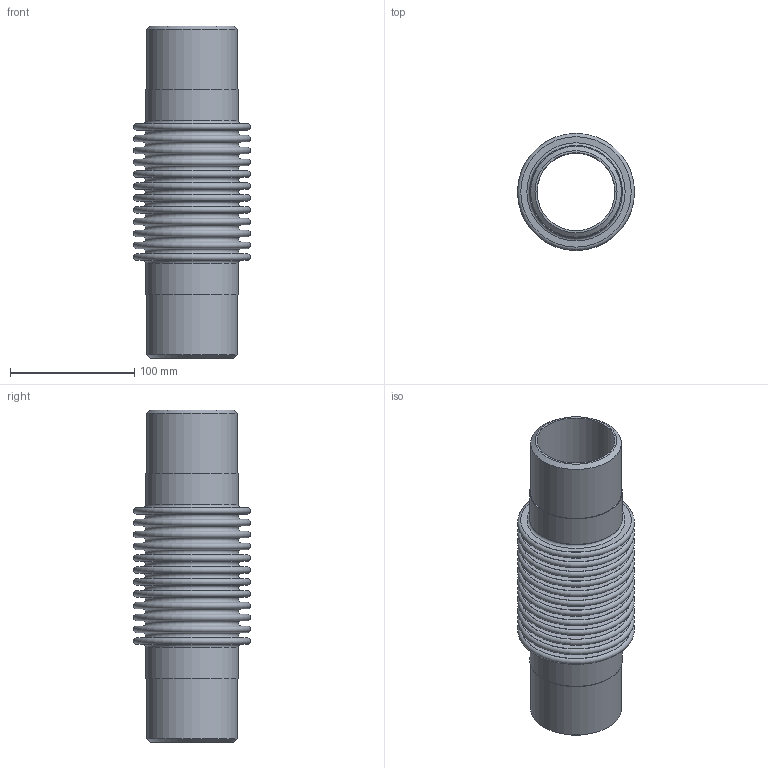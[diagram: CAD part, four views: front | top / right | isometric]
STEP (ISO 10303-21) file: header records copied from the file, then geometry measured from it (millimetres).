
FILE_DESCRIPTION(/* description */ ('EXPANSION JOINT,SINGLE, WELD ENDS,4 INCH NOMINAL'),/* implementation_level */ '2;1');
FILE_NAME(/* name */ 'ASSEMBLY US- 2.5 -12-85L.stp',/* time_stamp */ '2026-07-30T08:43:02-05:00',/* author */ ('jorgef'),/* organization */ (''),/* preprocessor_version */ 'ST-DEVELOPER v20.1',/* originating_system */ 'Autodesk Inventor 2026',/* authorisation */ '');
FILE_SCHEMA (('AUTOMOTIVE_DESIGN { 1 0 10303 214 3 1 1 }'));
Length unit declared in the file: inch
Products named in the file (3): ASSEMBLY  US- 2.5 -12-85L; STOCK BELLOW - US- 2.5 -12-85L; PIPE- US- 2.5 -12-85L
Assembly tree (3 placements, depth 2):
  ASSEMBLY  US- 2.5 -12-85L
    STOCK BELLOW - US- 2.5 -12-85L
    PIPE- US- 2.5 -12-85L  x2
Bounding box: 93.98 x 93.98 x 266.7 mm (x, y, z)
Volume: 206675.9 mm3; surface area: 249832.1 mm2
Topology: 5 solids, 5 shells, 118 faces, 180 edges, 121 vertices
Faces by surface type: plane 58, torus 50, cylinder 8, cone 2
Full cylindrical faces by diameter (mm): 62.713 x2, 73.025 x2, 73.66 x2, 74.574 x2
Entity records: 2769 total; most frequent: DIRECTION 573, CARTESIAN_POINT 405, ORIENTED_EDGE 342, AXIS2_PLACEMENT_3D 283, EDGE_CURVE 171, EDGE_LOOP 169, CIRCLE 164, VERTEX_POINT 114
